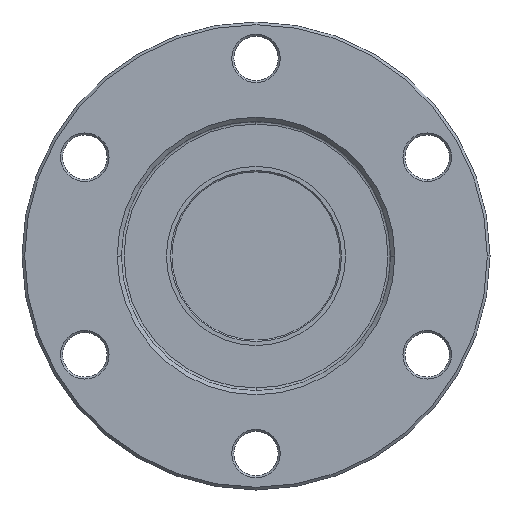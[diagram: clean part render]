
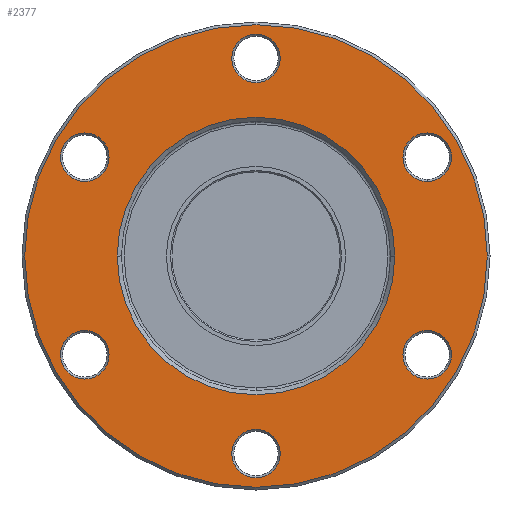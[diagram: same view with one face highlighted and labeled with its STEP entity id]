
A CAD part, left-side view. The second image highlights one B-rep face of the part: STEP entity #2377.
In plain terms, the highlighted planar face has unit normal (-1, 0, 0).
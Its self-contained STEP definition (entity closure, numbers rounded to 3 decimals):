
#303=CARTESIAN_POINT('',(0.,-34.35,0.));
#304=VERTEX_POINT('',#303);
#313=CARTESIAN_POINT('',(0.,34.35,0.));
#314=VERTEX_POINT('',#313);
#315=CARTESIAN_POINT('',(0.,0.,0.0));
#316=DIRECTION('',(1.0,0.0,0.0));
#317=DIRECTION('',(0.0,-1.0,0.0));
#318=AXIS2_PLACEMENT_3D('',#315,#316,#317);
#319=CIRCLE('',#318,34.35);
#320=EDGE_CURVE('',#304,#314,#319,.T.);
#919=CARTESIAN_POINT('',(0.,25.418,-18.275));
#920=VERTEX_POINT('',#919);
#934=CARTESIAN_POINT('',(0.,25.418,-11.075));
#935=VERTEX_POINT('',#934);
#942=CARTESIAN_POINT('',(0.,25.418,-14.675));
#943=DIRECTION('',(-1.0,0.0,0.0));
#944=DIRECTION('',(0.0,0.0,-1.0));
#945=AXIS2_PLACEMENT_3D('',#942,#943,#944);
#946=CIRCLE('',#945,3.6);
#947=EDGE_CURVE('',#935,#920,#946,.T.);
#1058=CARTESIAN_POINT('',(0.,28.536,12.875));
#1059=VERTEX_POINT('',#1058);
#1073=CARTESIAN_POINT('',(0.,22.3,16.475));
#1074=VERTEX_POINT('',#1073);
#1081=CARTESIAN_POINT('',(0.,25.418,14.675));
#1082=DIRECTION('',(-1.0,0.,0.));
#1083=DIRECTION('',(0.,0.866,-0.5));
#1084=AXIS2_PLACEMENT_3D('',#1081,#1082,#1083);
#1085=CIRCLE('',#1084,3.6);
#1086=EDGE_CURVE('',#1074,#1059,#1085,.T.);
#1197=CARTESIAN_POINT('',(0.,3.118,31.15));
#1198=VERTEX_POINT('',#1197);
#1212=CARTESIAN_POINT('',(0.,-3.118,27.55));
#1213=VERTEX_POINT('',#1212);
#1220=CARTESIAN_POINT('',(0.,0.,29.35));
#1221=DIRECTION('',(-1.,0.,0.));
#1222=DIRECTION('',(0.,0.866,0.5));
#1223=AXIS2_PLACEMENT_3D('',#1220,#1221,#1222);
#1224=CIRCLE('',#1223,3.6);
#1225=EDGE_CURVE('',#1213,#1198,#1224,.T.);
#1336=CARTESIAN_POINT('',(0.,-25.418,18.275));
#1337=VERTEX_POINT('',#1336);
#1351=CARTESIAN_POINT('',(0.,-25.418,11.075));
#1352=VERTEX_POINT('',#1351);
#1359=CARTESIAN_POINT('',(0.,-25.418,14.675));
#1360=DIRECTION('',(-1.0,0.0,0.0));
#1361=DIRECTION('',(0.0,0.0,1.0));
#1362=AXIS2_PLACEMENT_3D('',#1359,#1360,#1361);
#1363=CIRCLE('',#1362,3.6);
#1364=EDGE_CURVE('',#1352,#1337,#1363,.T.);
#1475=CARTESIAN_POINT('',(0.,-28.536,-12.875));
#1476=VERTEX_POINT('',#1475);
#1490=CARTESIAN_POINT('',(0.,-22.3,-16.475));
#1491=VERTEX_POINT('',#1490);
#1498=CARTESIAN_POINT('',(0.,-25.418,-14.675));
#1499=DIRECTION('',(-1.0,0.,0.));
#1500=DIRECTION('',(0.,-0.866,0.5));
#1501=AXIS2_PLACEMENT_3D('',#1498,#1499,#1500);
#1502=CIRCLE('',#1501,3.6);
#1503=EDGE_CURVE('',#1491,#1476,#1502,.T.);
#1614=CARTESIAN_POINT('',(0.,-3.118,-31.15));
#1615=VERTEX_POINT('',#1614);
#1629=CARTESIAN_POINT('',(0.,3.118,-27.55));
#1630=VERTEX_POINT('',#1629);
#1637=CARTESIAN_POINT('',(0.,0.,-29.35));
#1638=DIRECTION('',(-1.0,0.,0.));
#1639=DIRECTION('',(0.,-0.866,-0.5));
#1640=AXIS2_PLACEMENT_3D('',#1637,#1638,#1639);
#1641=CIRCLE('',#1640,3.6);
#1642=EDGE_CURVE('',#1630,#1615,#1641,.T.);
#1856=CARTESIAN_POINT('',(0.,-20.6,0.));
#1857=VERTEX_POINT('',#1856);
#1865=CARTESIAN_POINT('',(0.,20.6,0.));
#1866=VERTEX_POINT('',#1865);
#1873=CARTESIAN_POINT('',(0.,0.,0.0));
#1874=DIRECTION('',(-1.0,0.0,0.0));
#1875=DIRECTION('',(0.0,-1.0,0.0));
#1876=AXIS2_PLACEMENT_3D('',#1873,#1874,#1875);
#1877=CIRCLE('',#1876,20.6);
#1878=EDGE_CURVE('',#1866,#1857,#1877,.T.);
#2261=CARTESIAN_POINT('',(0.,0.,0.0));
#2262=DIRECTION('',(-1.0,0.0,0.0));
#2263=DIRECTION('',(0.0,-1.0,0.0));
#2264=AXIS2_PLACEMENT_3D('',#2261,#2262,#2263);
#2265=CIRCLE('',#2264,20.6);
#2266=EDGE_CURVE('',#1857,#1866,#2265,.T.);
#2298=CARTESIAN_POINT('',(0.0,27.375,0.0));
#2299=DIRECTION('',(-1.0,0.0,0.0));
#2300=DIRECTION('',(0.0,0.0,1.0));
#2301=AXIS2_PLACEMENT_3D('',#2298,#2299,#2300);
#2302=PLANE('',#2301);
#2303=CARTESIAN_POINT('',(0.,0.,0.0));
#2304=DIRECTION('',(1.0,0.0,0.0));
#2305=DIRECTION('',(0.0,-1.0,0.0));
#2306=AXIS2_PLACEMENT_3D('',#2303,#2304,#2305);
#2307=CIRCLE('',#2306,34.35);
#2308=EDGE_CURVE('',#314,#304,#2307,.T.);
#2309=ORIENTED_EDGE('',*,*,#2308,.F.);
#2310=ORIENTED_EDGE('',*,*,#320,.F.);
#2311=EDGE_LOOP('',(#2309,#2310));
#2312=FACE_OUTER_BOUND('',#2311,.T.);
#2313=ORIENTED_EDGE('',*,*,#1642,.F.);
#2314=CARTESIAN_POINT('',(0.,0.,-29.35));
#2315=DIRECTION('',(-1.0,0.,0.));
#2316=DIRECTION('',(0.,-0.866,-0.5));
#2317=AXIS2_PLACEMENT_3D('',#2314,#2315,#2316);
#2318=CIRCLE('',#2317,3.6);
#2319=EDGE_CURVE('',#1615,#1630,#2318,.T.);
#2320=ORIENTED_EDGE('',*,*,#2319,.F.);
#2321=EDGE_LOOP('',(#2313,#2320));
#2322=FACE_BOUND('',#2321,.T.);
#2323=ORIENTED_EDGE('',*,*,#1364,.F.);
#2324=CARTESIAN_POINT('',(0.,-25.418,14.675));
#2325=DIRECTION('',(-1.0,0.0,0.0));
#2326=DIRECTION('',(0.0,0.0,1.0));
#2327=AXIS2_PLACEMENT_3D('',#2324,#2325,#2326);
#2328=CIRCLE('',#2327,3.6);
#2329=EDGE_CURVE('',#1337,#1352,#2328,.T.);
#2330=ORIENTED_EDGE('',*,*,#2329,.F.);
#2331=EDGE_LOOP('',(#2323,#2330));
#2332=FACE_BOUND('',#2331,.T.);
#2333=ORIENTED_EDGE('',*,*,#1086,.F.);
#2334=CARTESIAN_POINT('',(0.,25.418,14.675));
#2335=DIRECTION('',(-1.0,0.,0.));
#2336=DIRECTION('',(0.,0.866,-0.5));
#2337=AXIS2_PLACEMENT_3D('',#2334,#2335,#2336);
#2338=CIRCLE('',#2337,3.6);
#2339=EDGE_CURVE('',#1059,#1074,#2338,.T.);
#2340=ORIENTED_EDGE('',*,*,#2339,.F.);
#2341=EDGE_LOOP('',(#2333,#2340));
#2342=FACE_BOUND('',#2341,.T.);
#2343=ORIENTED_EDGE('',*,*,#947,.F.);
#2344=CARTESIAN_POINT('',(0.,25.418,-14.675));
#2345=DIRECTION('',(-1.0,0.0,0.0));
#2346=DIRECTION('',(0.0,0.0,-1.0));
#2347=AXIS2_PLACEMENT_3D('',#2344,#2345,#2346);
#2348=CIRCLE('',#2347,3.6);
#2349=EDGE_CURVE('',#920,#935,#2348,.T.);
#2350=ORIENTED_EDGE('',*,*,#2349,.F.);
#2351=EDGE_LOOP('',(#2343,#2350));
#2352=FACE_BOUND('',#2351,.T.);
#2353=ORIENTED_EDGE('',*,*,#1225,.F.);
#2354=CARTESIAN_POINT('',(0.,0.,29.35));
#2355=DIRECTION('',(-1.,0.,0.));
#2356=DIRECTION('',(0.,0.866,0.5));
#2357=AXIS2_PLACEMENT_3D('',#2354,#2355,#2356);
#2358=CIRCLE('',#2357,3.6);
#2359=EDGE_CURVE('',#1198,#1213,#2358,.T.);
#2360=ORIENTED_EDGE('',*,*,#2359,.F.);
#2361=EDGE_LOOP('',(#2353,#2360));
#2362=FACE_BOUND('',#2361,.T.);
#2363=ORIENTED_EDGE('',*,*,#1503,.F.);
#2364=CARTESIAN_POINT('',(0.,-25.418,-14.675));
#2365=DIRECTION('',(-1.0,0.,0.));
#2366=DIRECTION('',(0.,-0.866,0.5));
#2367=AXIS2_PLACEMENT_3D('',#2364,#2365,#2366);
#2368=CIRCLE('',#2367,3.6);
#2369=EDGE_CURVE('',#1476,#1491,#2368,.T.);
#2370=ORIENTED_EDGE('',*,*,#2369,.F.);
#2371=EDGE_LOOP('',(#2363,#2370));
#2372=FACE_BOUND('',#2371,.T.);
#2373=ORIENTED_EDGE('',*,*,#1878,.F.);
#2374=ORIENTED_EDGE('',*,*,#2266,.F.);
#2375=EDGE_LOOP('',(#2373,#2374));
#2376=FACE_BOUND('',#2375,.T.);
#2377=ADVANCED_FACE('',(#2312,#2322,#2332,#2342,#2352,#2362,#2372,#2376),#2302,.T.);
